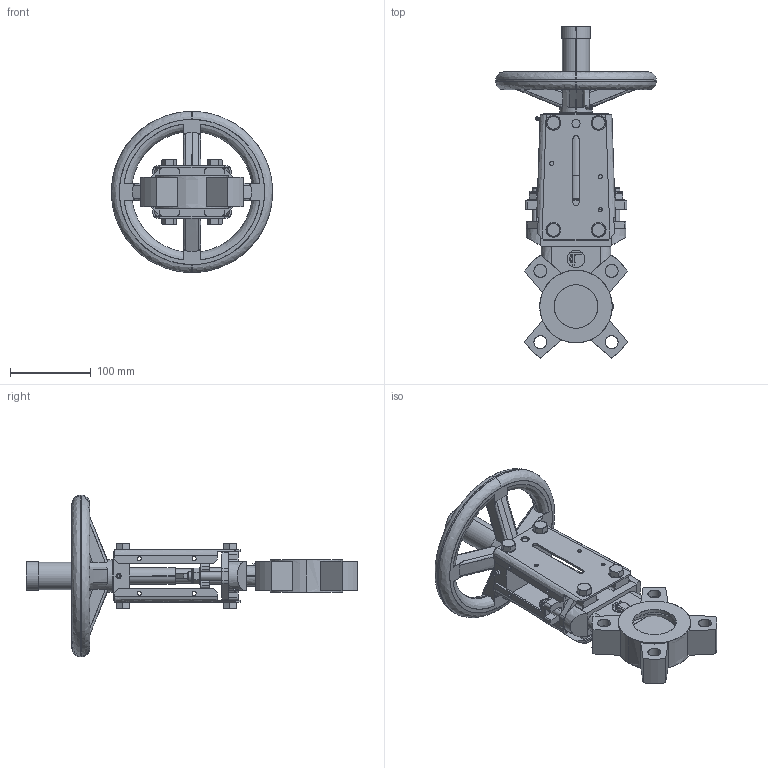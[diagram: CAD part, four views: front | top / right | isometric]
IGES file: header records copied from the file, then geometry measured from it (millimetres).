
Start section: SolidWorks IGES file using analytic representation for surfaces
Global section: file name: D:\part\3D Projects\VG-HANDWHEEL(DN50-600)\VG DN50\VG DN50.IGS; native system: SolidWorks 2009; preprocessor: SolidWorks 2009; author: zhixin.zheng; date: 100129.093106; units: millimetre
Bounding box: 200 x 411.8 x 200 mm (x, y, z)
Surface area: 282978.2 mm2 (no closed solid volume)
Topology: 0 solids, 0 shells, 857 faces, 9695 edges, 9695 vertices
Faces by surface type: bspline 551, revolution 306
